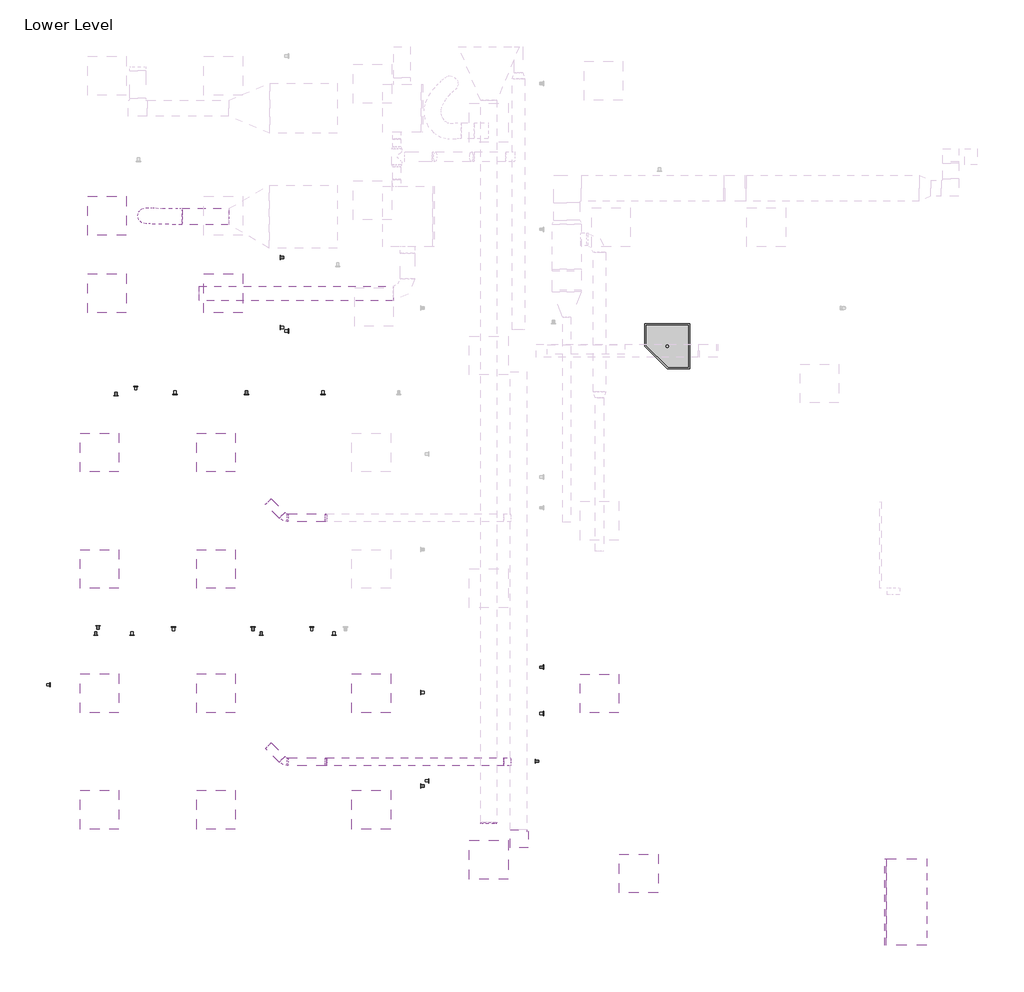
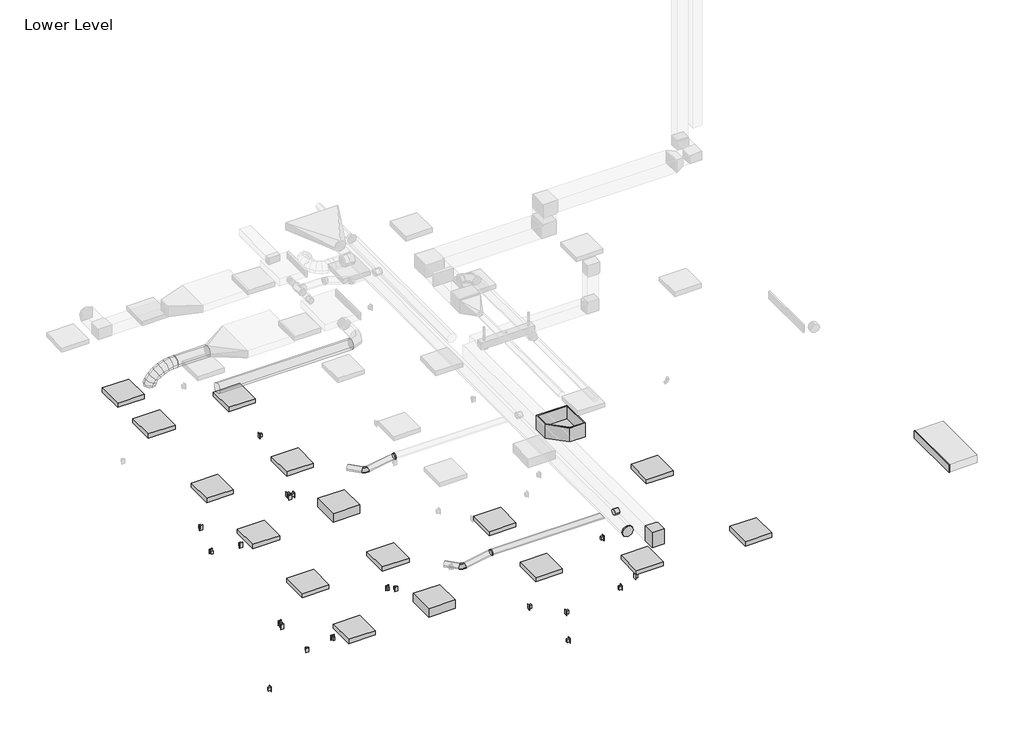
# One storey, part 1 of 5: 19 proxies, 16 light fixtures, 9 duct segments, 8 duct fittings, 4 switching devices, 1 flow terminal.
"""IFC4 building model written with IfcOpenShell, lengths in millimetres."""

from ifc_helpers import new_model, si_unit, point, frame, frame_2d, origin, place, context, project, spatial, polyline, circle_curve, ellipse_curve, trimmed, segment, composite_curve, outline, extrude, transform, mapped, element, save
from ifc_brep_helpers import plane_surface, cylinder_surface, advanced_brep
from components import duplex_receptacle_countertop_10251bba, rectangular_elbow_mitered_standard_7281579c, rectangular_endcap_standard_3ad2bc23, round_elbow_1_d_3b39a11e, round_elbow_1_d_043b31b5, round_endcap_standard_477732a8, round_takeoff_standard_7fe2b2d5, flow_terminal_3fd0b982, troffer_corner_insert_2x2_3_lamp_emergency_29e3a813, troffer_corner_insert_2x2_3lamp_e67c7f8f

model = new_model("IFC4")

# Units and contexts
model_context = context("Model", 3, world=origin())
ifc_project = project(units=[si_unit("LENGTHUNIT", "METRE", prefix="MILLI")], contexts=[model_context])

# Site, building, storey
site = spatial("IfcSite", under=ifc_project)
building = spatial("IfcBuilding", under=site)
storey = spatial("IfcBuildingStorey", under=building, Name="Lower Level", Elevation=29972.0)

# Proxies
placement = place(None, origin())
duplex_receptacle_countertop_shape = duplex_receptacle_countertop_10251bba(model_context)
element("IfcBuildingElementProxy", 1, Name="Duplex Receptacle : Countertop", ObjectType="Duplex Receptacle : Countertop", at=placement, inside=storey, context=model_context, shape_type="MappedRepresentation", body=[
    mapped(duplex_receptacle_countertop_shape, transform((-19781.0834068, -33.9304995, 31191.2), x_axis=(1.0, 0.0, 0.0), y_axis=(0.0, 0.0, 1.0), z_axis=(0.0, -1.0, 0.0))),
])
element("IfcBuildingElementProxy", 2, Name="Duplex Receptacle : Countertop", ObjectType="Duplex Receptacle : Countertop", at=placement, inside=storey, context=model_context, shape_type="MappedRepresentation", body=[
    mapped(duplex_receptacle_countertop_shape, transform((-17180.480491, -33.9304995, 31191.2), x_axis=(1.0, 0.0, 0.0), y_axis=(0.0, 0.0, 1.0), z_axis=(0.0, -1.0, 0.0))),
])
element("IfcBuildingElementProxy", 3, Name="Duplex Receptacle : Countertop", ObjectType="Duplex Receptacle : Countertop", at=placement, inside=storey, context=model_context, shape_type="MappedRepresentation", body=[
    mapped(duplex_receptacle_countertop_shape, transform((-17312.5285453, 89.8945005, 31191.2), x_axis=(-1.0, 0.0, 0.0), y_axis=(0.0, 0.0, 1.0), z_axis=(0.0, 1.0, 0.0))),
])
element("IfcBuildingElementProxy", 4, Name="Duplex Receptacle : Countertop", ObjectType="Duplex Receptacle : Countertop", at=placement, inside=storey, context=model_context, shape_type="MappedRepresentation", body=[
    mapped(duplex_receptacle_countertop_shape, transform((-19748.0248951, 108.9445005, 31191.2), x_axis=(-1.0, 0.0, 0.0), y_axis=(0.0, 0.0, 1.0), z_axis=(0.0, 1.0, 0.0))),
])
element("IfcBuildingElementProxy", 5, Name="Duplex Receptacle : Countertop", ObjectType="Duplex Receptacle : Countertop", at=placement, inside=storey, context=model_context, shape_type="MappedRepresentation", body=[
    mapped(duplex_receptacle_countertop_shape, transform((-19461.5177943, 3728.4445005, 31191.2), x_axis=(1.0, 0.0, 0.0), y_axis=(0.0, 0.0, 1.0), z_axis=(0.0, -1.0, 0.0))),
])
element("IfcBuildingElementProxy", 6, Name="Duplex Receptacle : Countertop", ObjectType="Duplex Receptacle : Countertop", at=placement, inside=storey, context=model_context, shape_type="MappedRepresentation", body=[
    mapped(duplex_receptacle_countertop_shape, transform((-17411.8900725, 3747.4945005, 31191.2), x_axis=(1.0, 0.0, 0.0), y_axis=(0.0, 0.0, 1.0), z_axis=(0.0, -1.0, 0.0))),
])
element("IfcBuildingElementProxy", 7, Name="Duplex Receptacle : Standard", ObjectType="Duplex Receptacle : Standard", at=placement, inside=storey, context=model_context, shape_type="MappedRepresentation", body=[
    mapped(duplex_receptacle_countertop_shape, transform((-12749.8454607, -1263.9483179, 30429.2), x_axis=(0.0, 1.0, 0.0), y_axis=(0.0, 0.0, 1.0), z_axis=(1.0, 0.0, 0.0))),
])
element("IfcBuildingElementProxy", 8, Name="Duplex Receptacle : Standard", ObjectType="Duplex Receptacle : Standard", at=placement, inside=storey, context=model_context, shape_type="MappedRepresentation", body=[
    mapped(duplex_receptacle_countertop_shape, transform((-20500.0204607, -814.4593573, 30429.2), x_axis=(0.0, 1.0, 0.0), y_axis=(0.0, 0.0, 1.0), z_axis=(1.0, 0.0, 0.0))),
])
element("IfcBuildingElementProxy", 9, Name="Duplex Receptacle : Standard", ObjectType="Duplex Receptacle : Standard", at=placement, inside=storey, context=model_context, shape_type="MappedRepresentation", body=[
    mapped(duplex_receptacle_countertop_shape, transform((-14673.8954607, -933.3632015, 30429.2), x_axis=(0.0, -1.0, 0.0), y_axis=(0.0, 0.0, 1.0), z_axis=(-1.0, 0.0, 0.0))),
])
element("IfcBuildingElementProxy", 10, Name="Duplex Receptacle : Standard", ObjectType="Duplex Receptacle : Standard", at=placement, inside=storey, context=model_context, shape_type="MappedRepresentation", body=[
    mapped(duplex_receptacle_countertop_shape, transform((-19208.069205, -33.9304995, 30429.2), x_axis=(1.0, 0.0, 0.0), y_axis=(0.0, 0.0, 1.0), z_axis=(0.0, -1.0, 0.0))),
])
element("IfcBuildingElementProxy", 11, Name="Duplex Receptacle : Standard", ObjectType="Duplex Receptacle : Standard", at=placement, inside=storey, context=model_context, shape_type="MappedRepresentation", body=[
    mapped(duplex_receptacle_countertop_shape, transform((-16034.4520874, -33.9304995, 30429.2), x_axis=(1.0, 0.0, 0.0), y_axis=(0.0, 0.0, 1.0), z_axis=(0.0, -1.0, 0.0))),
])
element("IfcBuildingElementProxy", 12, Name="Duplex Receptacle : Standard", ObjectType="Duplex Receptacle : Standard", at=placement, inside=storey, context=model_context, shape_type="MappedRepresentation", body=[
    mapped(duplex_receptacle_countertop_shape, transform((-18535.8794683, 3747.4945005, 30429.2), x_axis=(1.0, 0.0, 0.0), y_axis=(0.0, 0.0, 1.0), z_axis=(0.0, -1.0, 0.0))),
])
element("IfcBuildingElementProxy", 13, Name="Duplex Receptacle : Standard", ObjectType="Duplex Receptacle : Standard", at=placement, inside=storey, context=model_context, shape_type="MappedRepresentation", body=[
    mapped(duplex_receptacle_countertop_shape, transform((-16210.7641495, 3747.4945005, 30429.2), x_axis=(1.0, 0.0, 0.0), y_axis=(0.0, 0.0, 1.0), z_axis=(0.0, -1.0, 0.0))),
])
element("IfcBuildingElementProxy", 14, Name="Duplex Receptacle : Standard", ObjectType="Duplex Receptacle : Standard", at=placement, inside=storey, context=model_context, shape_type="MappedRepresentation", body=[
    mapped(duplex_receptacle_countertop_shape, transform((-18557.7324838, 89.8945005, 30429.2), x_axis=(-1.0, 0.0, 0.0), y_axis=(0.0, 0.0, 1.0), z_axis=(0.0, 1.0, 0.0))),
])
element("IfcBuildingElementProxy", 15, Name="Duplex Receptacle : Standard", ObjectType="Duplex Receptacle : Standard", at=placement, inside=storey, context=model_context, shape_type="MappedRepresentation", body=[
    mapped(duplex_receptacle_countertop_shape, transform((-16386.8902194, 89.8945005, 30429.2), x_axis=(-1.0, 0.0, 0.0), y_axis=(0.0, 0.0, 1.0), z_axis=(0.0, 1.0, 0.0))),
])
element("IfcBuildingElementProxy", 16, Name="Duplex Receptacle : Standard", ObjectType="Duplex Receptacle : Standard", at=placement, inside=storey, context=model_context, shape_type="MappedRepresentation", body=[
    mapped(duplex_receptacle_countertop_shape, transform((-16880.5204607, 4796.7788164, 30429.2), x_axis=(0.0, -1.0, 0.0), y_axis=(0.0, 0.0, 1.0), z_axis=(-1.0, 0.0, 0.0))),
])
element("IfcBuildingElementProxy", 17, Name="Duplex Receptacle : Standard", ObjectType="Duplex Receptacle : Standard", at=placement, inside=storey, context=model_context, shape_type="MappedRepresentation", body=[
    mapped(duplex_receptacle_countertop_shape, transform((-19152.7856934, 3871.3195005, 30429.2), x_axis=(-1.0, 0.0, 0.0), y_axis=(0.0, 0.0, 1.0), z_axis=(0.0, 1.0, 0.0))),
])
element("IfcBuildingElementProxy", 18, Name="Duplex Receptacle : Standard", ObjectType="Duplex Receptacle : Standard", at=placement, inside=storey, context=model_context, shape_type="MappedRepresentation", body=[
    mapped(duplex_receptacle_countertop_shape, transform((-16756.6954607, 4741.681297, 30429.2), x_axis=(0.0, 1.0, 0.0), y_axis=(0.0, 0.0, 1.0), z_axis=(1.0, 0.0, 0.0))),
])
element("IfcBuildingElementProxy", 19, Name="Duplex Receptacle : Standard", ObjectType="Duplex Receptacle : Standard", at=placement, inside=storey, context=model_context, shape_type="MappedRepresentation", body=[
    mapped(duplex_receptacle_countertop_shape, transform((-14550.0704607, -2323.3194927, 30429.2), x_axis=(0.0, 1.0, 0.0), y_axis=(0.0, 0.0, 1.0), z_axis=(1.0, 0.0, 0.0))),
])

# Duct fittings
rectangular_elbow_mitered_standard_shape = rectangular_elbow_mitered_standard_7281579c(model_context)
element("IfcDuctFitting", 20, ObjectType="Rectangular Elbow - Mitered : Standard", at=placement, inside=storey, context=model_context, shape_type="MappedRepresentation", body=[
    mapped(rectangular_elbow_mitered_standard_shape, transform((-13138.544811, -3245.6216457, 33020.0), x_axis=(0.0, -1.0, 0.0), y_axis=(1.0, 0.0, 0.0), z_axis=(0.0, 0.0, 1.0))),
])
rectangular_endcap_standard_shape = rectangular_endcap_standard_3ad2bc23(model_context)
element("IfcDuctFitting", 21, ObjectType="Rectangular Endcap : Standard", at=placement, inside=storey, context=model_context, shape_type="MappedRepresentation", body=[
    mapped(rectangular_endcap_standard_shape, transform((-7360.0018914, -4228.1054995, 33617.69375), x_axis=(-1.0, 0.0, 0.0), y_axis=(0.0, -1.0, 0.0), z_axis=(0.0, 0.0, 1.0))),
])
round_elbow_1_d_shape = round_elbow_1_d_3b39a11e(model_context)
element("IfcDuctFitting", 22, ObjectType="Round Elbow : 1 D", at=placement, inside=storey, context=model_context, shape_type="MappedRepresentation", body=[
    mapped(round_elbow_1_d_shape, transform((-16158.3431706, -2023.2439528, 32918.4), x_axis=(-1.0, 0.0, 0.0), y_axis=(0.0, 0.0, -1.0), z_axis=(0.0, -1.0, 0.0))),
])
element("IfcDuctFitting", 23, ObjectType="Round Elbow : 1 D", at=placement, inside=storey, context=model_context, shape_type="MappedRepresentation", body=[
    mapped(round_elbow_1_d_shape, transform((-16158.3431706, 1810.3913908, 32918.4), x_axis=(-1.0, 0.0, 0.0), y_axis=(0.0, 0.0, -1.0), z_axis=(0.0, -1.0, 0.0))),
])
round_elbow_1_d_2_shape = round_elbow_1_d_043b31b5(model_context)
element("IfcDuctFitting", 24, ObjectType="Round Elbow : 1 D", at=placement, inside=storey, context=model_context, shape_type="MappedRepresentation", body=[
    mapped(round_elbow_1_d_2_shape, transform((-16816.8445074, -2023.2439528, 32809.259375), x_axis=(0.7071067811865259, -0.7071067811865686, -2.8639103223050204e-08), y_axis=(0.6884479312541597, 0.6884479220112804, 0.22820802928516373), z_axis=(-0.1613674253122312, -0.16136746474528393, 0.9736123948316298))),
])
element("IfcDuctFitting", 25, ObjectType="Round Elbow : 1 D", at=placement, inside=storey, context=model_context, shape_type="MappedRepresentation", body=[
    mapped(round_elbow_1_d_2_shape, transform((-16816.8445074, 1810.3913908, 32809.259375), x_axis=(0.7071067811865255, -0.707106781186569, -2.8639103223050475e-08), y_axis=(0.6884479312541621, 0.6884479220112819, 0.22820802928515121), z_axis=(-0.16136742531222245, -0.161367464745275, 0.9736123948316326))),
])
round_endcap_standard_shape = round_endcap_standard_477732a8(model_context)
element("IfcDuctFitting", 26, ObjectType="Round Endcap : Standard", at=placement, inside=storey, context=model_context, shape_type="MappedRepresentation", body=[
    mapped(round_endcap_standard_shape, transform((-13605.5079607, -2974.1916692, 33125.9395828), x_axis=(0.0, -0.9999999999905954, 4.3369790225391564e-06), y_axis=(1.0000000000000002, 0.0, 0.0), z_axis=(0.0, 4.3369790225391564e-06, 0.9999999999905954))),
])
round_takeoff_standard_shape = round_takeoff_standard_7fe2b2d5(model_context)
element("IfcDuctFitting", 27, ObjectType="Round Takeoff : Standard", at=placement, inside=storey, context=model_context, shape_type="MappedRepresentation", body=[
    mapped(round_takeoff_standard_shape, transform((-13265.544811, -2023.2439528, 32918.4), x_axis=(-1.0, 0.0, 0.0), y_axis=(0.0, 1.0, 0.0), z_axis=(0.0, 0.0, -1.0))),
])

# Duct segments
element("IfcDuctSegment", 28, ObjectType="Flex - Round", at=placement, inside=storey, context=model_context, shape_type="AdvancedBrep", body=[
    advanced_brep(
    [(-18422.8248284, 6414.2842307, 33125.9381059), (-18422.8228218, 6541.2842307, 32998.9381059), (-18422.8248284, 6668.2842307, 33125.9381059), (-18422.826835, 6541.2842307, 33252.9381059), (-18433.152275, 6414.2842307, 33125.9379427), (-18427.213179, 6541.2842307, 32998.9380365), (-18432.1738135, 6668.2842307, 33125.9379582), (-18438.1129095, 6541.2842307, 33252.9378644), (-18998.2468091, 6427.2342279, 32769.175), (-19122.0307333, 6557.370849, 32769.175), (-18991.8941123, 6681.1547731, 32769.175), (-18868.1101881, 6551.0181521, 32769.175), (-18526.8562618, 6415.0075083, 33117.8823605), (-18506.4861488, 6541.8961189, 32992.1230658), (-18523.77087, 6668.9912454, 33118.0635054), (-18544.140983, 6542.1026349, 33243.8228001), (-18637.0590968, 6416.8674274, 33094.2470375), (-18599.9246736, 6543.4731028, 32972.0832029), (-18632.1256758, 6670.8199749, 33094.8245313), (-18669.260099, 6544.2142995, 33216.9883659), (-18745.4744577, 6419.4025492, 33055.8194408), (-18691.0924105, 6545.6049162, 32939.7689901), (-18739.4042775, 6673.3285154, 33056.7998564), (-18793.7863247, 6547.1261484, 33172.850307), (-18843.9578998, 6422.158337, 33003.3326321), (-18769.8918529, 6547.8099015, 32897.7727808), (-18837.3072758, 6676.068061, 33004.6223956), (-18911.3733226, 6550.4164965, 33110.182247), (-18924.3293294, 6424.6818602, 32937.5333655), (-18826.6789675, 6549.5929182, 32851.2817514), (-18917.57092, 6678.5882, 32938.9113718), (-19015.2212819, 6553.677142, 33025.1629859), (-18978.4517799, 6426.5228686, 32859.1793234), (-18859.8184682, 6550.7201787, 32803.305102), (-18971.8883329, 6680.4358402, 32860.2750791), (-19090.5216446, 6556.2385301, 32916.1493004), (-18998.2468091, 6427.2342279, 32796.2388616), (-18868.1101881, 6551.0181521, 32776.940671), (-18991.8941123, 6681.1547731, 32796.6645143), (-19122.0307333, 6557.370849, 32815.9627049)],
    [
        (0, 1, circle_curve(frame((-18422.8248284, 6541.2842307, 33125.9381059), z_axis=(0.9999999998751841, 0.0, 1.5799743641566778e-05), x_axis=(0.0, -1.0, 0.0)), 127.0)),
        (1, 2, circle_curve(frame((-18422.8248284, 6541.2842307, 33125.9381059), z_axis=(0.9999999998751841, 0.0, 1.5799743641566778e-05), x_axis=(0.0, -1.0, 0.0)), 127.0)),
        (2, 3, circle_curve(frame((-18422.8248284, 6541.2842307, 33125.9381059), z_axis=(0.9999999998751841, 0.0, 1.5799743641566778e-05), x_axis=(0.0, -1.0, 0.0)), 127.0)),
        (3, 0, circle_curve(frame((-18422.8248284, 6541.2842307, 33125.9381059), z_axis=(0.9999999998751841, 0.0, 1.5799743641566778e-05), x_axis=(0.0, -1.0, 0.0)), 127.0)),
        (0, 4),
        (4, 5, ellipse_curve(frame((-18432.6630442, 6541.2842307, 33125.9379505), z_axis=(0.999073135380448, -0.003848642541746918, 0.04287257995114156), x_axis=(0.0430449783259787, 0.08935961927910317, -0.9950688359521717)), 127.1177348, 127.0)),
        (5, 1),
        (5, 6, ellipse_curve(frame((-18432.6630442, 6541.2842307, 33125.9379505), z_axis=(0.999073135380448, -0.003848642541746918, 0.04287257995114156), x_axis=(0.0430449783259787, 0.08935961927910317, -0.9950688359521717)), 127.1177348, 127.0)),
        (6, 2),
        (6, 7, ellipse_curve(frame((-18432.6630442, 6541.2842307, 33125.9379505), z_axis=(0.999073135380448, -0.003848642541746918, 0.04287257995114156), x_axis=(0.0430449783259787, 0.08935961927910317, -0.9950688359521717)), 127.1177348, 127.0)),
        (7, 3),
        (7, 4, ellipse_curve(frame((-18432.6630442, 6541.2842307, 33125.9379505), z_axis=(0.999073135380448, -0.003848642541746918, 0.04287257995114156), x_axis=(0.0430449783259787, 0.08935961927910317, -0.9950688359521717)), 127.1177348, 127.0)),
        (8, 9, circle_curve(frame((-18995.0704607, 6554.1945005, 32769.175), z_axis=(0.0, 0.0, -1.0), x_axis=(-0.02501061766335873, -0.9996871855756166, 0.0)), 127.0)),
        (9, 10, circle_curve(frame((-18995.0704607, 6554.1945005, 32769.175), z_axis=(0.0, 0.0, -1.0), x_axis=(-0.02501061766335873, -0.9996871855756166, 0.0)), 127.0)),
        (10, 11, circle_curve(frame((-18995.0704607, 6554.1945005, 32769.175), z_axis=(0.0, 0.0, -1.0), x_axis=(-0.02501061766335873, -0.9996871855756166, 0.0)), 127.0)),
        (11, 8, circle_curve(frame((-18995.0704607, 6554.1945005, 32769.175), z_axis=(0.0, 0.0, -1.0), x_axis=(-0.02501061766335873, -0.9996871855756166, 0.0)), 127.0)),
        (4, 12),
        (12, 13, ellipse_curve(frame((-18525.3135659, 6541.9993769, 33117.9729329), z_axis=(0.9889199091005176, -0.012118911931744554, 0.14795453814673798), x_axis=(0.1484415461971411, 0.0700677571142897, -0.9864358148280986)), 127.251696, 127.0)),
        (13, 5),
        (13, 14, ellipse_curve(frame((-18525.3135659, 6541.9993769, 33117.9729329), z_axis=(0.9889199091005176, -0.012118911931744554, 0.14795453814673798), x_axis=(0.1484415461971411, 0.0700677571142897, -0.9864358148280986)), 127.251696, 127.0)),
        (14, 6),
        (14, 15, ellipse_curve(frame((-18525.3135659, 6541.9993769, 33117.9729329), z_axis=(0.9889199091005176, -0.012118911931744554, 0.14795453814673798), x_axis=(0.1484415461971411, 0.0700677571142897, -0.9864358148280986)), 127.251696, 127.0)),
        (15, 7),
        (15, 12, ellipse_curve(frame((-18525.3135659, 6541.9993769, 33117.9729329), z_axis=(0.9889199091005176, -0.012118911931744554, 0.14795453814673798), x_axis=(0.1484415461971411, 0.0700677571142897, -0.9864358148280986)), 127.251696, 127.0)),
        (12, 16),
        (16, 17, ellipse_curve(frame((-18634.5923863, 6543.8437011, 33094.5357844), z_axis=(0.9619880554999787, -0.01930756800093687, 0.27240814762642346), x_axis=(0.27300431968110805, 0.042784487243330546, -0.9610609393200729)), 127.2665098, 127.0)),
        (17, 13),
        (17, 18, ellipse_curve(frame((-18634.5923863, 6543.8437011, 33094.5357844), z_axis=(0.9619880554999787, -0.01930756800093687, 0.27240814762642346), x_axis=(0.27300431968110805, 0.042784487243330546, -0.9610609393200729)), 127.2665098, 127.0)),
        (18, 14),
        (18, 19, ellipse_curve(frame((-18634.5923863, 6543.8437011, 33094.5357844), z_axis=(0.9619880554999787, -0.01930756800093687, 0.27240814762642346), x_axis=(0.27300431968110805, 0.042784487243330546, -0.9610609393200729)), 127.2665098, 127.0)),
        (19, 15),
        (19, 16, ellipse_curve(frame((-18634.5923863, 6543.8437011, 33094.5357844), z_axis=(0.9619880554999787, -0.01930756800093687, 0.27240814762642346), x_axis=(0.27300431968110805, 0.042784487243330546, -0.9610609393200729)), 127.2665098, 127.0)),
        (16, 20),
        (20, 21, ellipse_curve(frame((-18742.4393676, 6546.3655323, 33056.3096486), z_axis=(0.9148074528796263, -0.023425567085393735, 0.40321032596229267), x_axis=(0.4036389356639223, 0.0178143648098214, -0.914744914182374)), 127.3533068, 127.0)),
        (21, 17),
        (21, 22, ellipse_curve(frame((-18742.4393676, 6546.3655323, 33056.3096486), z_axis=(0.9148074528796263, -0.023425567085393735, 0.40321032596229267), x_axis=(0.4036389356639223, 0.0178143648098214, -0.914744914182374)), 127.3533068, 127.0)),
        (22, 18),
        (22, 23, ellipse_curve(frame((-18742.4393676, 6546.3655323, 33056.3096486), z_axis=(0.9148074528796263, -0.023425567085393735, 0.40321032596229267), x_axis=(0.4036389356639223, 0.0178143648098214, -0.914744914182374)), 127.3533068, 127.0)),
        (23, 19),
        (23, 20, ellipse_curve(frame((-18742.4393676, 6546.3655323, 33056.3096486), z_axis=(0.9148074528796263, -0.023425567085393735, 0.40321032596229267), x_axis=(0.4036389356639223, 0.0178143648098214, -0.914744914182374)), 127.3533068, 127.0)),
        (20, 24),
        (24, 25, ellipse_curve(frame((-18840.6325878, 6549.113199, 33003.9775139), z_axis=(0.8318846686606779, -0.02460559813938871, 0.5544027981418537), x_axis=(0.5545278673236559, -0.0020352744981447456, -0.8321626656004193)), 127.6142862, 127.0)),
        (25, 21),
        (25, 26, ellipse_curve(frame((-18840.6325878, 6549.113199, 33003.9775139), z_axis=(0.8318846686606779, -0.02460559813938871, 0.5544027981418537), x_axis=(0.5545278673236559, -0.0020352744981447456, -0.8321626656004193)), 127.6142862, 127.0)),
        (26, 22),
        (26, 27, ellipse_curve(frame((-18840.6325878, 6549.113199, 33003.9775139), z_axis=(0.8318846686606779, -0.02460559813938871, 0.5544027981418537), x_axis=(0.5545278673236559, -0.0020352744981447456, -0.8321626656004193)), 127.6142862, 127.0)),
        (27, 23),
        (27, 24, ellipse_curve(frame((-18840.6325878, 6549.113199, 33003.9775139), z_axis=(0.8318846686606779, -0.02460559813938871, 0.5544027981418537), x_axis=(0.5545278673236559, -0.0020352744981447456, -0.8321626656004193)), 127.6142862, 127.0)),
        (24, 28),
        (28, 29, ellipse_curve(frame((-18920.9501247, 6551.6350301, 32938.2223686), z_axis=(0.6775254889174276, -0.022024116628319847, 0.7351694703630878), x_axis=(0.7349668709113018, -0.017752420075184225, -0.6778705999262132)), 128.2571375, 127.0)),
        (29, 25),
        (29, 30, ellipse_curve(frame((-18920.9501247, 6551.6350301, 32938.2223686), z_axis=(0.6775254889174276, -0.022024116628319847, 0.7351694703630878), x_axis=(0.7349668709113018, -0.017752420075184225, -0.6778705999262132)), 128.2571375, 127.0)),
        (30, 26),
        (30, 31, ellipse_curve(frame((-18920.9501247, 6551.6350301, 32938.2223686), z_axis=(0.6775254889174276, -0.022024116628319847, 0.7351694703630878), x_axis=(0.7349668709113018, -0.017752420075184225, -0.6778705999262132)), 128.2571375, 127.0)),
        (31, 27),
        (31, 28, ellipse_curve(frame((-18920.9501247, 6551.6350301, 32938.2223686), z_axis=(0.6775254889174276, -0.022024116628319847, 0.7351694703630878), x_axis=(0.7349668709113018, -0.017752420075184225, -0.6778705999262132)), 128.2571375, 127.0)),
        (28, 32),
        (32, 33, ellipse_curve(frame((-18975.1700564, 6553.4793544, 32859.7272012), z_axis=(0.4390412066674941, -0.015225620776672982, 0.8983379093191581), x_axis=(0.8978827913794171, -0.028613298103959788, -0.43930373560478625)), 128.4409374, 127.0)),
        (33, 29),
        (33, 34, ellipse_curve(frame((-18975.1700564, 6553.4793544, 32859.7272012), z_axis=(0.4390412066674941, -0.015225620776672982, 0.8983379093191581), x_axis=(0.8978827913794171, -0.028613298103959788, -0.43930373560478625)), 128.4409374, 127.0)),
        (34, 30),
        (34, 35, ellipse_curve(frame((-18975.1700564, 6553.4793544, 32859.7272012), z_axis=(0.4390412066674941, -0.015225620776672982, 0.8983379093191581), x_axis=(0.8978827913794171, -0.028613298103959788, -0.43930373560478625)), 128.4409374, 127.0)),
        (35, 31),
        (35, 32, ellipse_curve(frame((-18975.1700564, 6553.4793544, 32859.7272012), z_axis=(0.4390412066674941, -0.015225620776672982, 0.8983379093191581), x_axis=(0.8978827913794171, -0.028613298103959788, -0.43930373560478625)), 128.4409374, 127.0)),
        (32, 36),
        (36, 37, ellipse_curve(frame((-18995.0704607, 6554.1945005, 32796.4516879), z_axis=(0.1517593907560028, -0.005453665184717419, 0.9884024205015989), x_axis=(0.9877648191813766, -0.03549657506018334, -0.15185735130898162)), 128.490175, 127.0)),
        (37, 33),
        (37, 38, ellipse_curve(frame((-18995.0704607, 6554.1945005, 32796.4516879), z_axis=(0.1517593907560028, -0.005453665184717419, 0.9884024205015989), x_axis=(0.9877648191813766, -0.03549657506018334, -0.15185735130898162)), 128.490175, 127.0)),
        (38, 34),
        (38, 39, ellipse_curve(frame((-18995.0704607, 6554.1945005, 32796.4516879), z_axis=(0.1517593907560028, -0.005453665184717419, 0.9884024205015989), x_axis=(0.9877648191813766, -0.03549657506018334, -0.15185735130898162)), 128.490175, 127.0)),
        (39, 35),
        (39, 36, ellipse_curve(frame((-18995.0704607, 6554.1945005, 32796.4516879), z_axis=(0.1517593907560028, -0.005453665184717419, 0.9884024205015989), x_axis=(0.9877648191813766, -0.03549657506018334, -0.15185735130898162)), 128.490175, 127.0)),
        (36, 8),
        (11, 37),
        (10, 38),
        (9, 39),
    ],
    [
        plane_surface(frame((-18422.8228218, 6541.2842307, 32998.9381059), z_axis=(0.9999999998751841, 0.0, 1.5799743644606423e-05), x_axis=(0.0, -1.0, 0.0))),
        cylinder_surface(frame((-18422.8248284, 6541.2842307, 33125.9381059), z_axis=(0.9999999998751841, 0.0, 1.5799743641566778e-05), x_axis=(0.0, -1.0, 0.0)), 127.0),
        plane_surface(frame((-18995.0704607, 6427.1945005, 32769.175), z_axis=(0.0, 0.0, -1.0), x_axis=(-1.0, 0.0, 0.0))),
        cylinder_surface(frame((-18432.6630442, 6541.2842307, 33125.9379505), z_axis=(0.996295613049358, -0.0076901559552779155, 0.08564994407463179), x_axis=(-0.00769015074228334, -0.9999703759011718, -0.0003300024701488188)), 127.0),
        cylinder_surface(frame((-18525.3135659, 6541.9993769, 33117.9729329), z_axis=(0.9776321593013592, -0.016499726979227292, 0.2096738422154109), x_axis=(-0.016520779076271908, -0.9998621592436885, -0.0016511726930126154)), 127.0),
        cylinder_surface(frame((-18634.5923863, 6543.8437011, 33094.5357844), z_axis=(0.9423149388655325, -0.022034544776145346, 0.3340015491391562), x_axis=(-0.02222021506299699, -0.9997477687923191, -0.0032650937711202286)), 127.0),
        cylinder_surface(frame((-18742.4393676, 6546.3655323, 33056.3096486), z_axis=(0.8822242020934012, -0.02468661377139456, 0.47018190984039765), x_axis=(-0.025469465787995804, -0.9996645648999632, -0.004697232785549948)), 127.0),
        cylinder_surface(frame((-18840.6325878, 6549.113199, 33003.9775139), z_axis=(0.7735363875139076, -0.024287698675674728, 0.6332863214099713), x_axis=(-0.026809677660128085, -0.9996249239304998, -0.005590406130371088)), 127.0),
        cylinder_surface(frame((-18920.9501247, 6551.6350301, 32938.2223686), z_axis=(0.5682327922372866, -0.019328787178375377, 0.8226408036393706), x_axis=(-0.026459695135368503, -0.9996363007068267, -0.005210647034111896)), 127.0),
        cylinder_surface(frame((-18975.1700564, 6553.4793544, 32859.7272012), z_axis=(0.2999986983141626, -0.010780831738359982, 0.9538786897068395), x_axis=(-0.025513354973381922, -0.999669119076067, -0.0032743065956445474)), 127.0),
        cylinder_surface(frame((-18995.0704607, 6554.1945005, 32796.4516879), z_axis=(0.0, 0.0, 1.0000000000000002), x_axis=(-0.02501061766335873, -0.9996871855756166, 0.0)), 127.0),
    ],
    [
        (0, [[1, 2, 3, 4]]),
        (1, [[-1, 5, 6, 7]]),
        (1, [[-2, -7, 8, 9]]),
        (1, [[-3, -9, 10, 11]]),
        (1, [[-4, -11, 12, -5]]),
        (2, [[13, 14, 15, 16]]),
        (3, [[-6, 17, 18, 19]]),
        (3, [[-8, -19, 20, 21]]),
        (3, [[-10, -21, 22, 23]]),
        (3, [[-12, -23, 24, -17]]),
        (4, [[-18, 25, 26, 27]]),
        (4, [[-20, -27, 28, 29]]),
        (4, [[-22, -29, 30, 31]]),
        (4, [[-24, -31, 32, -25]]),
        (5, [[-26, 33, 34, 35]]),
        (5, [[-28, -35, 36, 37]]),
        (5, [[-30, -37, 38, 39]]),
        (5, [[-32, -39, 40, -33]]),
        (6, [[-34, 41, 42, 43]]),
        (6, [[-36, -43, 44, 45]]),
        (6, [[-38, -45, 46, 47]]),
        (6, [[-40, -47, 48, -41]]),
        (7, [[-42, 49, 50, 51]]),
        (7, [[-44, -51, 52, 53]]),
        (7, [[-46, -53, 54, 55]]),
        (7, [[-48, -55, 56, -49]]),
        (8, [[-50, 57, 58, 59]]),
        (8, [[-52, -59, 60, 61]]),
        (8, [[-54, -61, 62, 63]]),
        (8, [[-56, -63, 64, -57]]),
        (9, [[-58, 65, 66, 67]]),
        (9, [[-60, -67, 68, 69]]),
        (9, [[-62, -69, 70, 71]]),
        (9, [[-64, -71, 72, -65]]),
        (10, [[-66, 73, -16, 74]]),
        (10, [[-68, -74, -15, 75]]),
        (10, [[-70, -75, -14, 76]]),
        (10, [[-72, -76, -13, -73]]),
    ],
),
])
element("IfcDuctSegment", 29, ObjectType="Mitered Elbows / Taps", at=placement, inside=storey, context=model_context, shape_type="SweptSolid", body=[
    extrude(outline(polyline([(-6725.0018914, -3550.2429995), (-6725.0018914, -4905.9679995), (-7360.0018914, -4905.9679995), (-7360.0018914, -3550.2429995), (-6725.0018914, -3550.2429995)])), frame((0.0, 0.0, 33528.0), z_axis=(0.0, 0.0, 1.0), x_axis=(1.0, 0.0, 0.0)), (0.0, 0.0, 1.0), 179.3875),
])
element("IfcDuctSegment", 30, ObjectType="Taps / Short Radius", at=placement, inside=storey, context=model_context, shape_type="SweptSolid", body=[
    extrude(outline(composite_curve([segment(trimmed(circle_curve(frame_2d((0.0, -127.0)), 127.0), [point((-127.0, -127.0))], [point((0.0, 0.0))], False, "CARTESIAN"), True, "CONTINUOUS"), segment(trimmed(circle_curve(frame_2d((0.0, -127.0)), 127.0), [point((0.0, 0.0))], [point((127.0, -127.0))], False, "CARTESIAN"), True, "CONTINUOUS"), segment(trimmed(circle_curve(frame_2d((0.0, -127.0)), 127.0), [point((127.0, -127.0))], [point((0.0, -254.0))], False, "CARTESIAN"), True, "CONTINUOUS"), segment(trimmed(circle_curve(frame_2d((0.0, -127.0)), 127.0), [point((0.0, -254.0))], [point((-127.0, -127.0))], False, "CARTESIAN"), True, "CONTINUOUS")], self_intersect=False)), frame((-18422.8228218, 6541.2842307, 32998.9381059), z_axis=(0.9999999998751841, 0.0, 1.5799743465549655e-05), x_axis=(0.0, -1.0, 0.0)), (0.0, 0.0, 1.0), 733.6856872),
])
element("IfcDuctSegment", 31, ObjectType="Taps / Short Radius", at=placement, inside=storey, context=model_context, shape_type="SweptSolid", body=[
    extrude(outline(composite_curve([segment(trimmed(circle_curve(frame_2d((5334.9945005, 33121.6)), 114.3), [point((5220.6945005, 33121.6))], [point((5334.9945005, 33235.9))], False, "CARTESIAN"), True, "CONTINUOUS"), segment(trimmed(circle_curve(frame_2d((5334.9945005, 33121.6)), 114.3), [point((5334.9945005, 33235.9))], [point((5449.2945005, 33121.6))], False, "CARTESIAN"), True, "CONTINUOUS"), segment(trimmed(circle_curve(frame_2d((5334.9945005, 33121.6)), 114.3), [point((5449.2945005, 33121.6))], [point((5334.9945005, 33007.3))], False, "CARTESIAN"), True, "CONTINUOUS"), segment(trimmed(circle_curve(frame_2d((5334.9945005, 33121.6)), 114.3), [point((5334.9945005, 33007.3))], [point((5220.6945005, 33121.6))], False, "CARTESIAN"), True, "CONTINUOUS")], self_intersect=False)), frame((-18156.8704607, 0.0, 0.0), z_axis=(1.0, 0.0, 0.0), x_axis=(0.0, 1.0, 0.0)), (0.0, 0.0, 1.0), 3047.1367579),
])
element("IfcDuctSegment", 32, ObjectType="Taps / Short Radius", at=placement, inside=storey, context=model_context, shape_type="SweptSolid", body=[
    extrude(outline(composite_curve([segment(trimmed(circle_curve(frame_2d((-2023.2439528, 32918.4)), 63.5), [point((-2086.7439528, 32918.4))], [point((-2023.2439528, 32981.9))], False, "CARTESIAN"), True, "CONTINUOUS"), segment(trimmed(circle_curve(frame_2d((-2023.2439528, 32918.4)), 63.5), [point((-2023.2439528, 32981.9))], [point((-1959.7439528, 32918.4))], False, "CARTESIAN"), True, "CONTINUOUS"), segment(trimmed(circle_curve(frame_2d((-2023.2439528, 32918.4)), 63.5), [point((-1959.7439528, 32918.4))], [point((-2023.2439528, 32854.9))], False, "CARTESIAN"), True, "CONTINUOUS"), segment(trimmed(circle_curve(frame_2d((-2023.2439528, 32918.4)), 63.5), [point((-2023.2439528, 32854.9))], [point((-2086.7439528, 32918.4))], False, "CARTESIAN"), True, "CONTINUOUS")], self_intersect=False)), frame((-16147.8899229, 0.0, 0.0), z_axis=(1.0, 0.0, 0.0), x_axis=(0.0, 1.0, 0.0)), (0.0, 0.0, 1.0), 2780.7451119),
])
element("IfcDuctSegment", 33, ObjectType="Taps / Short Radius", at=placement, inside=storey, context=model_context, shape_type="SweptSolid", body=[
    extrude(outline(composite_curve([segment(trimmed(circle_curve(frame_2d((0.0, -63.5)), 63.5), [point((-63.5, -63.5))], [point((0.0, 0.0))], False, "CARTESIAN"), True, "CONTINUOUS"), segment(trimmed(circle_curve(frame_2d((0.0, -63.5)), 63.5), [point((0.0, 0.0))], [point((63.5, -63.5))], False, "CARTESIAN"), True, "CONTINUOUS"), segment(trimmed(circle_curve(frame_2d((0.0, -63.5)), 63.5), [point((63.5, -63.5))], [point((0.0, -127.0))], False, "CARTESIAN"), True, "CONTINUOUS"), segment(trimmed(circle_curve(frame_2d((0.0, -63.5)), 63.5), [point((0.0, -127.0))], [point((-63.5, -63.5))], False, "CARTESIAN"), True, "CONTINUOUS")], self_intersect=False)), frame((-16854.7472091, -1985.3412511, 32745.7593852), z_axis=(-0.7071067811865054, 0.7071067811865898, 0.0), x_axis=(0.7071067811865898, 0.7071067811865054, 0.0)), (0.0, 0.0, 1.0), 303.9966937),
])
element("IfcDuctSegment", 34, ObjectType="Taps / Short Radius", at=placement, inside=storey, context=model_context, shape_type="SweptSolid", body=[
    extrude(outline(composite_curve([segment(trimmed(circle_curve(frame_2d((0.0, -63.5)), 63.5), [point((0.0, 0.0))], [point((63.5000001, -63.5))], False, "CARTESIAN"), True, "CONTINUOUS"), segment(trimmed(circle_curve(frame_2d((0.0, -63.5)), 63.5), [point((63.5000001, -63.5))], [point((0.0, -127.0))], False, "CARTESIAN"), True, "CONTINUOUS"), segment(trimmed(circle_curve(frame_2d((0.0, -63.5)), 63.5), [point((0.0, -127.0))], [point((-63.5, -63.5))], False, "CARTESIAN"), True, "CONTINUOUS"), segment(trimmed(circle_curve(frame_2d((0.0, -63.5)), 63.5), [point((-63.5, -63.5))], [point((0.0, 0.0))], False, "CARTESIAN"), True, "CONTINUOUS")], self_intersect=False)), frame((-16763.9633954, -1959.7439528, 32818.0239398), z_axis=(0.9865416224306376, 0.0, 0.16351032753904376), x_axis=(0.16351032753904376, 0.0, -0.9865416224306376)), (0.0, 0.0, 1.0), 603.428834),
])
element("IfcDuctSegment", 35, ObjectType="Taps / Short Radius", at=placement, inside=storey, context=model_context, shape_type="SweptSolid", body=[
    extrude(outline(composite_curve([segment(trimmed(circle_curve(frame_2d((0.0, -63.5)), 63.5), [point((-63.5, -63.5))], [point((0.0, 0.0))], False, "CARTESIAN"), True, "CONTINUOUS"), segment(trimmed(circle_curve(frame_2d((0.0, -63.5)), 63.5), [point((0.0, 0.0))], [point((63.5, -63.5))], False, "CARTESIAN"), True, "CONTINUOUS"), segment(trimmed(circle_curve(frame_2d((0.0, -63.5)), 63.5), [point((63.5, -63.5))], [point((0.0, -127.0))], False, "CARTESIAN"), True, "CONTINUOUS"), segment(trimmed(circle_curve(frame_2d((0.0, -63.5)), 63.5), [point((0.0, -127.0))], [point((-63.5, -63.5))], False, "CARTESIAN"), True, "CONTINUOUS")], self_intersect=False)), frame((-16854.7472091, 1848.2940925, 32745.7593852), z_axis=(-0.7071067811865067, 0.7071067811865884, 0.0), x_axis=(0.7071067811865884, 0.7071067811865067, 0.0)), (0.0, 0.0, 1.0), 303.9966937),
])
element("IfcDuctSegment", 36, ObjectType="Taps / Short Radius", at=placement, inside=storey, context=model_context, shape_type="SweptSolid", body=[
    extrude(outline(composite_curve([segment(trimmed(circle_curve(frame_2d((0.0, -63.5)), 63.5), [point((0.0, 0.0))], [point((63.5000001, -63.5))], False, "CARTESIAN"), True, "CONTINUOUS"), segment(trimmed(circle_curve(frame_2d((0.0, -63.5)), 63.5), [point((63.5000001, -63.5))], [point((0.0, -127.0))], False, "CARTESIAN"), True, "CONTINUOUS"), segment(trimmed(circle_curve(frame_2d((0.0, -63.5)), 63.5), [point((0.0, -127.0))], [point((-63.5, -63.5))], False, "CARTESIAN"), True, "CONTINUOUS"), segment(trimmed(circle_curve(frame_2d((0.0, -63.5)), 63.5), [point((-63.5, -63.5))], [point((0.0, 0.0))], False, "CARTESIAN"), True, "CONTINUOUS")], self_intersect=False)), frame((-16763.9633954, 1873.8913908, 32818.0239398), z_axis=(0.9865416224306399, 0.0, 0.16351032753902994), x_axis=(0.16351032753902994, 0.0, -0.9865416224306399)), (0.0, 0.0, 1.0), 603.428834),
])

# Flow terminal
flow_terminal_shape = flow_terminal_3fd0b982(model_context)
element("IfcFlowTerminal", 37, ObjectType="Sink - Mop : 28\"x28\"", at=placement, inside=storey, context=model_context, shape_type="MappedRepresentation", body=[
    mapped(flow_terminal_shape, transform((-10444.7954607, 4858.7445005, 29972.0), x_axis=(0.0, -1.0, 0.0), y_axis=(1.0, 0.0, 0.0), z_axis=(0.0, 0.0, 1.0))),
])

# Light fixtures
troffer_corner_insert_2x2_3_lamp_emergency_shape = troffer_corner_insert_2x2_3_lamp_emergency_29e3a813(model_context)
element("IfcLightFixture", 38, ObjectType="Troffer Corner Insert : 2x2 3 Lamp Emergency", at=placement, inside=storey, context=model_context, shape_type="MappedRepresentation", body=[
    mapped(troffer_corner_insert_2x2_3_lamp_emergency_shape, transform((-17891.7579607, -2777.1304995, 30276.8), x_axis=(1.0, 0.0, 0.0), y_axis=(0.0, 1.0, 0.0), z_axis=(0.0, 0.0, 1.0))),
])
element("IfcLightFixture", 39, ObjectType="Troffer Corner Insert : 2x2 3 Lamp Emergency", at=placement, inside=storey, context=model_context, shape_type="MappedRepresentation", body=[
    mapped(troffer_corner_insert_2x2_3_lamp_emergency_shape, transform((-17891.7579607, 1004.2945005, 30276.8), x_axis=(1.0, 0.0, 0.0), y_axis=(0.0, 1.0, 0.0), z_axis=(0.0, 0.0, 1.0))),
])
troffer_corner_insert_2x2_3lamp_shape = troffer_corner_insert_2x2_3lamp_e67c7f8f(model_context)
element("IfcLightFixture", 40, ObjectType="Troffer Corner Insert : 2x2 3Lamp", at=placement, inside=storey, context=model_context, shape_type="MappedRepresentation", body=[
    mapped(troffer_corner_insert_2x2_3lamp_shape, transform((-11866.4513201, -951.5054995, 30276.8), x_axis=(1.0, 0.0, 0.0), y_axis=(0.0, 1.0, 0.0), z_axis=(0.0, 0.0, 1.0))),
])
element("IfcLightFixture", 41, ObjectType="Troffer Corner Insert : 2x2 3Lamp", at=placement, inside=storey, context=model_context, shape_type="MappedRepresentation", body=[
    mapped(troffer_corner_insert_2x2_3lamp_shape, transform((-13605.5079607, -3566.1179995, 30276.8), x_axis=(1.0, 0.0, 0.0), y_axis=(0.0, 1.0, 0.0), z_axis=(0.0, 0.0, 1.0))),
])
element("IfcLightFixture", 42, ObjectType="Troffer Corner Insert : 2x2 3Lamp", at=placement, inside=storey, context=model_context, shape_type="MappedRepresentation", body=[
    mapped(troffer_corner_insert_2x2_3lamp_shape, transform((-15453.3579607, -2777.1304995, 30276.8), x_axis=(1.0, 0.0, 0.0), y_axis=(0.0, 1.0, 0.0), z_axis=(0.0, 0.0, 1.0))),
])
element("IfcLightFixture", 43, ObjectType="Troffer Corner Insert : 2x2 3Lamp", at=placement, inside=storey, context=model_context, shape_type="MappedRepresentation", body=[
    mapped(troffer_corner_insert_2x2_3lamp_shape, transform((-17891.7579607, -948.3304995, 30276.8), x_axis=(1.0, 0.0, 0.0), y_axis=(0.0, 1.0, 0.0), z_axis=(0.0, 0.0, 1.0))),
])
element("IfcLightFixture", 44, ObjectType="Troffer Corner Insert : 2x2 3Lamp", at=placement, inside=storey, context=model_context, shape_type="MappedRepresentation", body=[
    mapped(troffer_corner_insert_2x2_3lamp_shape, transform((-15453.3579607, -948.3304995, 30276.8), x_axis=(1.0, 0.0, 0.0), y_axis=(0.0, 1.0, 0.0), z_axis=(0.0, 0.0, 1.0))),
])
element("IfcLightFixture", 45, ObjectType="Troffer Corner Insert : 2x2 3Lamp", at=placement, inside=storey, context=model_context, shape_type="MappedRepresentation", body=[
    mapped(troffer_corner_insert_2x2_3lamp_shape, transform((-17891.7579607, 2833.0945005, 30276.8), x_axis=(1.0, 0.0, 0.0), y_axis=(0.0, 1.0, 0.0), z_axis=(0.0, 0.0, 1.0))),
])
element("IfcLightFixture", 46, ObjectType="Troffer Corner Insert : 2x2 3Lamp", at=placement, inside=storey, context=model_context, shape_type="MappedRepresentation", body=[
    mapped(troffer_corner_insert_2x2_3lamp_shape, transform((-19720.5579607, 2833.0945005, 30276.8), x_axis=(1.0, 0.0, 0.0), y_axis=(0.0, 1.0, 0.0), z_axis=(0.0, 0.0, 1.0))),
])
element("IfcLightFixture", 47, ObjectType="Troffer Corner Insert : 2x2 3Lamp", at=placement, inside=storey, context=model_context, shape_type="MappedRepresentation", body=[
    mapped(troffer_corner_insert_2x2_3lamp_shape, transform((-19720.5579607, 1004.2945005, 30276.8), x_axis=(1.0, 0.0, 0.0), y_axis=(0.0, 1.0, 0.0), z_axis=(0.0, 0.0, 1.0))),
])
element("IfcLightFixture", 48, ObjectType="Troffer Corner Insert : 2x2 3Lamp", at=placement, inside=storey, context=model_context, shape_type="MappedRepresentation", body=[
    mapped(troffer_corner_insert_2x2_3lamp_shape, transform((-19720.5579607, -948.3304995, 30276.8), x_axis=(1.0, 0.0, 0.0), y_axis=(0.0, 1.0, 0.0), z_axis=(0.0, 0.0, 1.0))),
])
element("IfcLightFixture", 49, ObjectType="Troffer Corner Insert : 2x2 3Lamp", at=placement, inside=storey, context=model_context, shape_type="MappedRepresentation", body=[
    mapped(troffer_corner_insert_2x2_3lamp_shape, transform((-19720.5579607, -2777.1304995, 30276.8), x_axis=(1.0, 0.0, 0.0), y_axis=(0.0, 1.0, 0.0), z_axis=(0.0, 0.0, 1.0))),
])
element("IfcLightFixture", 50, ObjectType="Troffer Corner Insert : 2x2 3Lamp", at=placement, inside=storey, context=model_context, shape_type="MappedRepresentation", body=[
    mapped(troffer_corner_insert_2x2_3lamp_shape, transform((-19604.6704607, 5334.9945005, 30276.8), x_axis=(1.0, 0.0, 0.0), y_axis=(0.0, 1.0, 0.0), z_axis=(0.0, 0.0, 1.0))),
])
element("IfcLightFixture", 51, ObjectType="Troffer Corner Insert : 2x2 3Lamp", at=placement, inside=storey, context=model_context, shape_type="MappedRepresentation", body=[
    mapped(troffer_corner_insert_2x2_3lamp_shape, transform((-17775.8704607, 5334.9945005, 30276.8), x_axis=(1.0, 0.0, 0.0), y_axis=(0.0, 1.0, 0.0), z_axis=(0.0, 0.0, 1.0))),
])
element("IfcLightFixture", 52, ObjectType="Troffer Corner Insert : 2x2 3Lamp", at=placement, inside=storey, context=model_context, shape_type="MappedRepresentation", body=[
    mapped(troffer_corner_insert_2x2_3lamp_shape, transform((-19604.6704607, 6554.1945005, 30276.8), x_axis=(1.0, 0.0, 0.0), y_axis=(0.0, 1.0, 0.0), z_axis=(0.0, 0.0, 1.0))),
])
element("IfcLightFixture", 53, ObjectType="Troffer Corner Insert : 2x2 3Lamp", at=placement, inside=storey, context=model_context, shape_type="MappedRepresentation", body=[
    mapped(troffer_corner_insert_2x2_3lamp_shape, transform((-11251.2454607, -3780.4553042, 30276.8), x_axis=(1.0, 0.0, 0.0), y_axis=(0.0, 1.0, 0.0), z_axis=(0.0, 0.0, 1.0))),
])

# Switching devices
element("IfcSwitchingDevice", 54, ObjectType="Lighting Switches : Single Pole", at=placement, inside=storey, context=model_context, shape_type="MappedRepresentation", body=[
    mapped(duplex_receptacle_countertop_shape, transform((-16880.5204607, 5897.9818425, 31191.2), x_axis=(0.0, -1.0, 0.0), y_axis=(0.0, 0.0, 1.0), z_axis=(-1.0, 0.0, 0.0))),
])
element("IfcSwitchingDevice", 55, ObjectType="Lighting Switches : Single Pole", at=placement, inside=storey, context=model_context, shape_type="MappedRepresentation", body=[
    mapped(duplex_receptacle_countertop_shape, transform((-12749.8454607, -539.2606646, 31191.2), x_axis=(0.0, 1.0, 0.0), y_axis=(0.0, 0.0, 1.0), z_axis=(1.0, 0.0, 0.0))),
])
element("IfcSwitchingDevice", 56, ObjectType="Lighting Switches : Single Pole", at=placement, inside=storey, context=model_context, shape_type="MappedRepresentation", body=[
    mapped(duplex_receptacle_countertop_shape, transform((-14673.8954607, -2408.759237, 31191.2), x_axis=(0.0, -1.0, 0.0), y_axis=(0.0, 0.0, 1.0), z_axis=(-1.0, 0.0, 0.0))),
])
element("IfcSwitchingDevice", 57, ObjectType="Lighting Switches : Three Way", at=placement, inside=storey, context=model_context, shape_type="MappedRepresentation", body=[
    mapped(duplex_receptacle_countertop_shape, transform((-12873.6704607, -2016.6898195, 31191.2), x_axis=(0.0, -1.0, 0.0), y_axis=(0.0, 0.0, 1.0), z_axis=(-1.0, 0.0, 0.0))),
])

save(model, "model.ifc")
